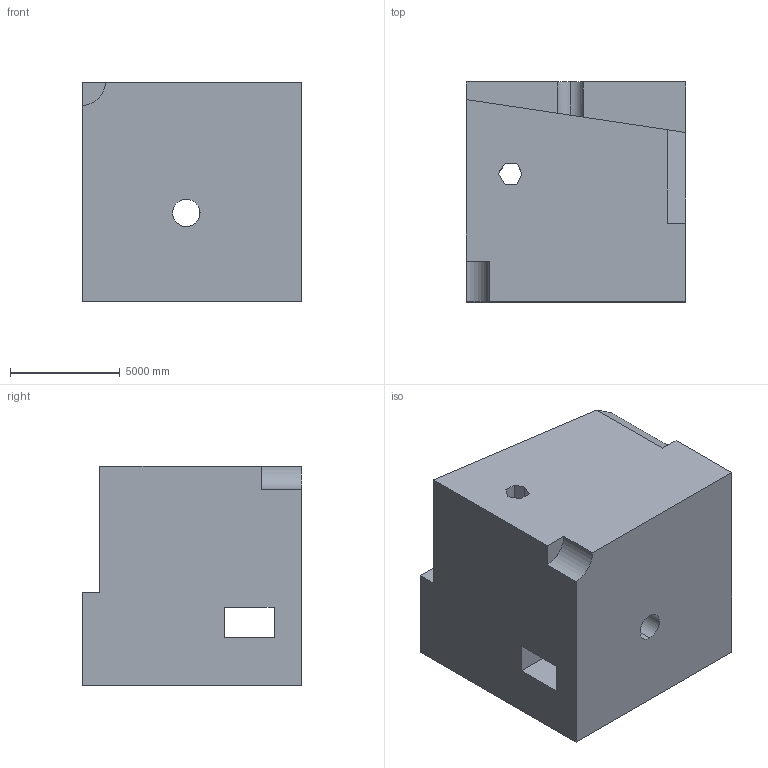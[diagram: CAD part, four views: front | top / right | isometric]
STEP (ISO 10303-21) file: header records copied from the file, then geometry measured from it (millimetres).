
FILE_DESCRIPTION (( 'STEP AP203' ), '1' );
FILE_NAME ('162.STEP', '2022-09-06T15:17:31', ( 'user' ), ( '' ), 'SwSTEP 2.0', 'SolidWorks 2021', '' );
FILE_SCHEMA (( 'CONFIG_CONTROL_DESIGN' ));
Length unit declared in the file: centimetre
Products named in the file (1): 162
Bounding box: 10000 x 10000 x 10000 mm (x, y, z)
Volume: 843527634802.7 mm3; surface area: 722046943.4 mm2
Topology: 1 solids, 1 shells, 29 faces, 93 edges, 62 vertices
Faces by surface type: plane 26, cylinder 3
Entity records: 1110 total; most frequent: CARTESIAN_POINT 191, ORIENTED_EDGE 186, DIRECTION 161, EDGE_CURVE 93, VECTOR 81, LINE 81, VERTEX_POINT 62, AXIS2_PLACEMENT_3D 40
